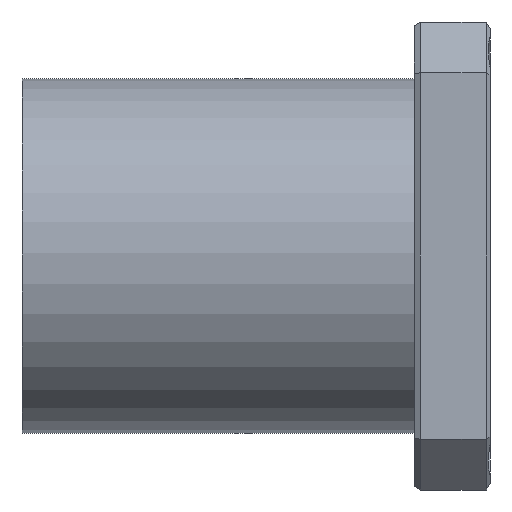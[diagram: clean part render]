
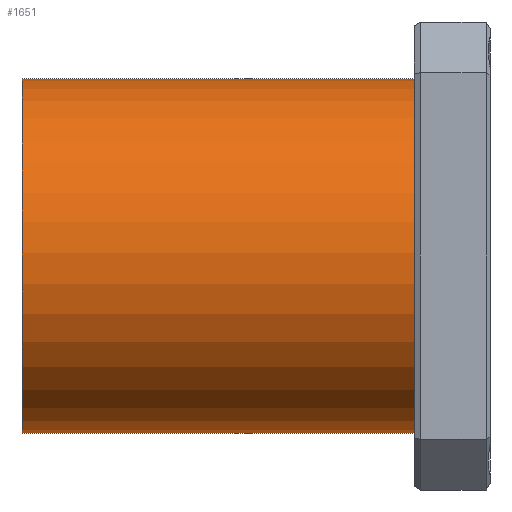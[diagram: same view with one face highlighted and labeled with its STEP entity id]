
A CAD part, left-side view. The second image highlights one B-rep face of the part: STEP entity #1651.
In plain terms, the highlighted cylindrical face has radius 14 mm (diameter 28 mm), a partial arc.
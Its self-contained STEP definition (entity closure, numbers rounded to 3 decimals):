
#72 = VECTOR ( 'NONE', #2703, 1000. ) ;
#110 = LINE ( 'NONE', #1236, #72 ) ;
#125 = DIRECTION ( 'NONE',  ( 0., 0., -1. ) ) ;
#172 = DIRECTION ( 'NONE',  ( 0., 1., 0. ) ) ;
#215 = EDGE_CURVE ( 'NONE', #2283, #2647, #1987, .T. ) ;
#387 = CARTESIAN_POINT ( 'NONE',  ( 0., 37., 0. ) ) ;
#434 = ORIENTED_EDGE ( 'NONE', *, *, #715, .F. ) ;
#503 = CARTESIAN_POINT ( 'NONE',  ( 0., 0., 0. ) ) ;
#599 = VERTEX_POINT ( 'NONE', #2048 ) ;
#652 = DIRECTION ( 'NONE',  ( 0., 0., 1. ) ) ;
#678 = CARTESIAN_POINT ( 'NONE',  ( 0., 0., 14. ) ) ;
#680 = ORIENTED_EDGE ( 'NONE', *, *, #827, .F. ) ;
#705 = CIRCLE ( 'NONE', #1066, 14. ) ;
#715 = EDGE_CURVE ( 'NONE', #599, #1219, #110, .T. ) ;
#759 = DIRECTION ( 'NONE',  ( 0., 1., 0. ) ) ;
#827 = EDGE_CURVE ( 'NONE', #2283, #599, #1229, .T. ) ;
#1066 = AXIS2_PLACEMENT_3D ( 'NONE', #503, #759, #652 ) ;
#1095 = ORIENTED_EDGE ( 'NONE', *, *, #2194, .T. ) ;
#1219 = VERTEX_POINT ( 'NONE', #678 ) ;
#1222 = CYLINDRICAL_SURFACE ( 'NONE', #2311, 14. ) ;
#1229 = CIRCLE ( 'NONE', #2627, 14. ) ;
#1236 = CARTESIAN_POINT ( 'NONE',  ( 0., 37., 14. ) ) ;
#1276 = CARTESIAN_POINT ( 'NONE',  ( 0., 0., -14. ) ) ;
#1283 = DIRECTION ( 'NONE',  ( 0., -1., 0. ) ) ;
#1399 = ORIENTED_EDGE ( 'NONE', *, *, #215, .T. ) ;
#1585 = DIRECTION ( 'NONE',  ( 0., -1., 0. ) ) ;
#1587 = CARTESIAN_POINT ( 'NONE',  ( 0., 37., -14. ) ) ;
#1651 = ADVANCED_FACE ( 'NONE', ( #2182 ), #1222, .T. ) ;
#1840 = EDGE_LOOP ( 'NONE', ( #434, #680, #1399, #1095 ) ) ;
#1917 = VECTOR ( 'NONE', #1585, 1000. ) ;
#1987 = LINE ( 'NONE', #1587, #1917 ) ;
#2048 = CARTESIAN_POINT ( 'NONE',  ( 0., 37., 14. ) ) ;
#2101 = DIRECTION ( 'NONE',  ( 0., 0., 1. ) ) ;
#2182 = FACE_OUTER_BOUND ( 'NONE', #1840, .T. ) ;
#2194 = EDGE_CURVE ( 'NONE', #2647, #1219, #705, .T. ) ;
#2275 = CARTESIAN_POINT ( 'NONE',  ( 0., 37., 0. ) ) ;
#2283 = VERTEX_POINT ( 'NONE', #2699 ) ;
#2311 = AXIS2_PLACEMENT_3D ( 'NONE', #387, #1283, #125 ) ;
#2627 = AXIS2_PLACEMENT_3D ( 'NONE', #2275, #172, #2101 ) ;
#2647 = VERTEX_POINT ( 'NONE', #1276 ) ;
#2699 = CARTESIAN_POINT ( 'NONE',  ( 0., 37., -14. ) ) ;
#2703 = DIRECTION ( 'NONE',  ( 0., -1., 0. ) ) ;
